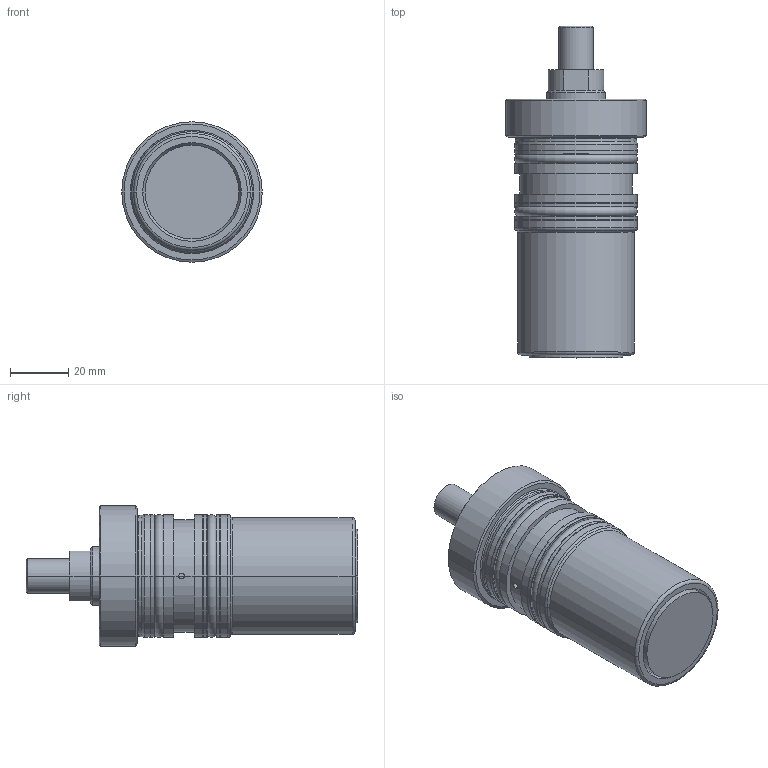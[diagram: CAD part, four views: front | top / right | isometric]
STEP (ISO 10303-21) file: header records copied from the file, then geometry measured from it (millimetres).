
FILE_DESCRIPTION (( 'STEP AP203' ), '1' );
FILE_NAME ('GERMA_Einschraubzylinder_200-032-050-A.STEP', '2023-09-06T06:45:19', ( '' ), ( '' ), 'SwSTEP 2.0', 'SolidWorks 2016', '' );
FILE_SCHEMA (( 'CONFIG_CONTROL_DESIGN' ));
Length unit declared in the file: millimetre
Products named in the file (3): Gehaeuse 200-032_Gehaeuse 200-032-050; GERMA_Einschraubzylinder_200-032-050-A; Kolben 60x-032_Kolben DU.32-Hub50-AG
Assembly tree (2 placements, depth 2):
  GERMA_Einschraubzylinder_200-032-050-A
    Gehaeuse 200-032_Gehaeuse 200-032-050
    Kolben 60x-032_Kolben DU.32-Hub50-AG
Bounding box: 48 x 113.5 x 48 mm (x, y, z)
Volume: 99834.5 mm3; surface area: 32425.2 mm2
Topology: 2 solids, 2 shells, 248 faces, 613 edges, 391 vertices
Faces by surface type: plane 95, bspline 68, cylinder 43, torus 22, cone 20
Entity records: 11241 total; most frequent: CARTESIAN_POINT 5437, ORIENTED_EDGE 1218, DIRECTION 978, EDGE_CURVE 609, VERTEX_POINT 391, AXIS2_PLACEMENT_3D 328, LINE 322, VECTOR 322
